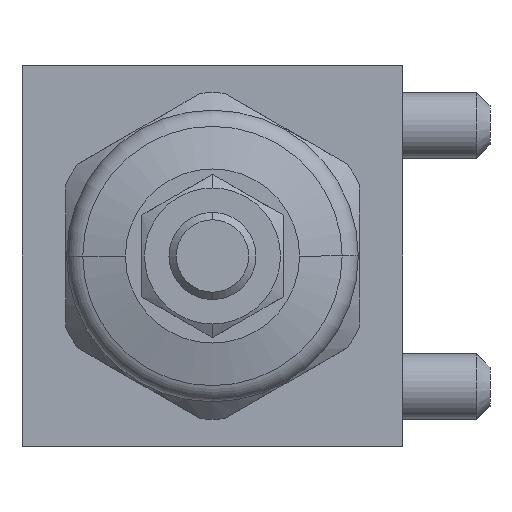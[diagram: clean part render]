
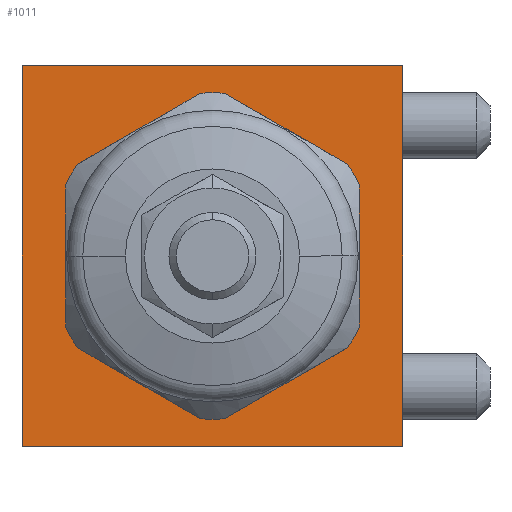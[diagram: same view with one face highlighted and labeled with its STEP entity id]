
A CAD part, left-side view. The second image highlights one B-rep face of the part: STEP entity #1011.
In plain terms, the highlighted planar face has unit normal (-1, 0, 0) as drawn and (1, 0, 0) by its records, which use the part's own axes.
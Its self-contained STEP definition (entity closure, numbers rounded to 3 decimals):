
#879=PLANE('',#3294);
#1011=ADVANCED_FACE('',(#1195),#879,.T.);
#1195=FACE_OUTER_BOUND('',#1346,.T.);
#1346=EDGE_LOOP('',(#1992,#1993,#1994,#1995));
#1564=LINE('',#4524,#1721);
#1569=LINE('',#4535,#1726);
#1578=LINE('',#4553,#1735);
#1581=LINE('',#4563,#1738);
#1721=VECTOR('',#3675,1.);
#1726=VECTOR('',#3684,1.);
#1735=VECTOR('',#3697,1.);
#1738=VECTOR('',#3710,1.);
#1992=ORIENTED_EDGE('',*,*,#2835,.T.);
#1993=ORIENTED_EDGE('',*,*,#2825,.T.);
#1994=ORIENTED_EDGE('',*,*,#2819,.T.);
#1995=ORIENTED_EDGE('',*,*,#2842,.T.);
#2594=VERTEX_POINT('',#4523);
#2595=VERTEX_POINT('',#4525);
#2599=VERTEX_POINT('',#4536);
#2606=VERTEX_POINT('',#4554);
#2819=EDGE_CURVE('',#2595,#2594,#1564,.T.);
#2825=EDGE_CURVE('',#2599,#2595,#1569,.T.);
#2835=EDGE_CURVE('',#2606,#2599,#1578,.T.);
#2842=EDGE_CURVE('',#2594,#2606,#1581,.T.);
#3294=AXIS2_PLACEMENT_3D('',#4568,#3718,#3719);
#3675=DIRECTION('',(0.,1.,0.));
#3684=DIRECTION('',(0.,0.,-1.));
#3697=DIRECTION('',(0.,-1.,0.));
#3710=DIRECTION('',(0.,0.,1.));
#3718=DIRECTION('',(1.,0.,0.));
#3719=DIRECTION('',(0.,0.,1.));
#4523=CARTESIAN_POINT('',(0.,17.5,-17.5));
#4524=CARTESIAN_POINT('',(0.,17.5,-17.5));
#4525=CARTESIAN_POINT('',(0.,-17.5,-17.5));
#4535=CARTESIAN_POINT('',(0.,-17.5,17.5));
#4536=CARTESIAN_POINT('',(0.,-17.5,17.5));
#4553=CARTESIAN_POINT('',(0.,17.5,17.5));
#4554=CARTESIAN_POINT('',(0.,17.5,17.5));
#4563=CARTESIAN_POINT('',(0.,17.5,17.5));
#4568=CARTESIAN_POINT('',(0.,-17.5,17.5));
